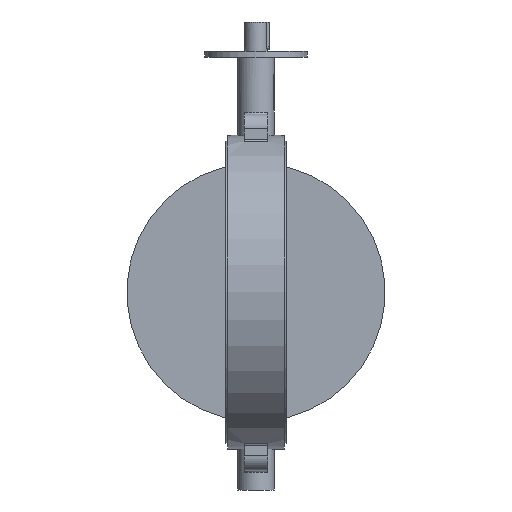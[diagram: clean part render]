
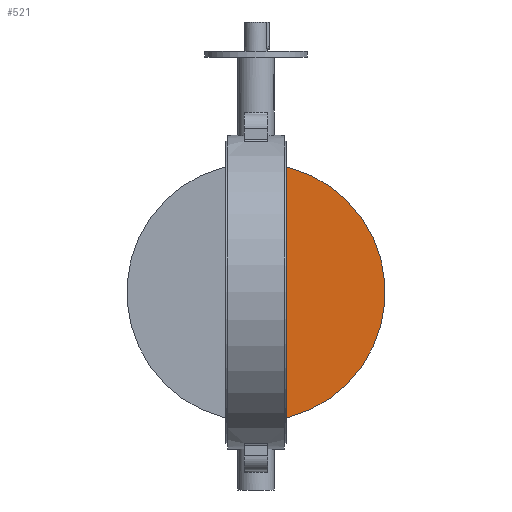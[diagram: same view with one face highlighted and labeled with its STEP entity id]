
A CAD part, front view. The second image highlights one B-rep face of the part: STEP entity #521.
In plain terms, the highlighted planar face has unit normal (0, -1, 0).
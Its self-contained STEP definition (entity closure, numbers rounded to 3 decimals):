
#521=ADVANCED_FACE('',(#1288),#1290,.T.);
#1288=FACE_BOUND('',#1289,.T.);
#1289=EDGE_LOOP('',(#1834,#1835));
#1290=PLANE('',#1291);
#1291=AXIS2_PLACEMENT_3D('',#1292,#1293,#1294);
#1292=CARTESIAN_POINT('',(0.,-7.5,0.));
#1293=DIRECTION('',(0.,-1.,0.));
#1294=DIRECTION('',(0.,0.,1.));
#1834=ORIENTED_EDGE('',*,*,#2084,.T.);
#1835=ORIENTED_EDGE('',*,*,#2119,.T.);
#2084=EDGE_CURVE('',#2372,#2369,#2373,.T.);
#2119=EDGE_CURVE('',#2369,#2372,#2422,.T.);
#2369=VERTEX_POINT('',#3876);
#2372=VERTEX_POINT('',#3930);
#2373=LINE('',#3931,#3932);
#2422=CIRCLE('',#4207,220.255);
#3876=CARTESIAN_POINT('',(19.615,-7.5,-219.38));
#3930=CARTESIAN_POINT('',(19.615,-7.5,219.38));
#3931=CARTESIAN_POINT('',(19.615,-7.5,219.38));
#3932=VECTOR('',#3933,1.);
#3933=DIRECTION('',(0.,0.,-1.));
#4207=AXIS2_PLACEMENT_3D('',#4208,#4209,#4210);
#4208=CARTESIAN_POINT('',(0.,-7.5,0.));
#4209=DIRECTION('',(0.,-1.,0.));
#4210=DIRECTION('',(0.089,0.,-0.996));
